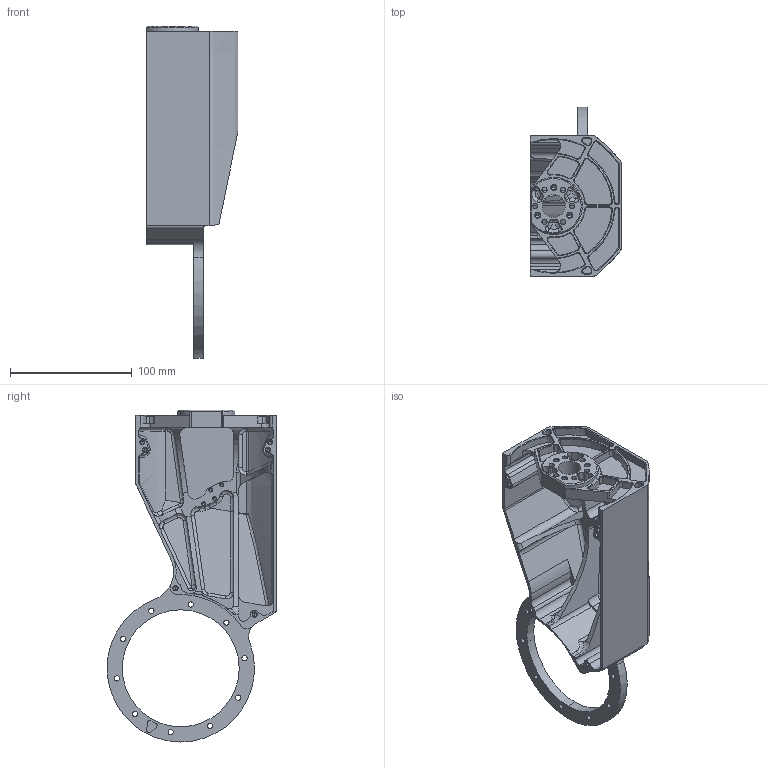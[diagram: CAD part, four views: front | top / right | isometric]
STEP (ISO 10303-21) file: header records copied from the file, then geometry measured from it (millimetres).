
FILE_DESCRIPTION((''),'2;1');
FILE_NAME('KD-D-301R_1','2025-07-12T17:39:53',('Administrator'),(''),'CREO PARAMETRIC BY PTC INC, 2022073','CREO PARAMETRIC BY PTC INC, 2022073','');
FILE_SCHEMA(('CONFIG_CONTROL_DESIGN'));
Length unit declared in the file: millimetre
Products named in the file (1): KD-D-301R_1
Bounding box: 75.5 x 139.5 x 272.5 mm (x, y, z)
Volume: 223864.8 mm3; surface area: 136865.4 mm2
Topology: 1 solids, 1 shells, 614 faces, 1674 edges, 1049 vertices
Faces by surface type: cylinder 265, cone 141, plane 126, bspline 39, sphere 17, torus 14, extrusion 12
Entity records: 23199 total; most frequent: CARTESIAN_POINT 7666, DIRECTION 3341, ORIENTED_EDGE 3254, EDGE_CURVE 1627, AXIS2_PLACEMENT_3D 1329, VERTEX_POINT 1049, CIRCLE 766, EDGE_LOOP 684
